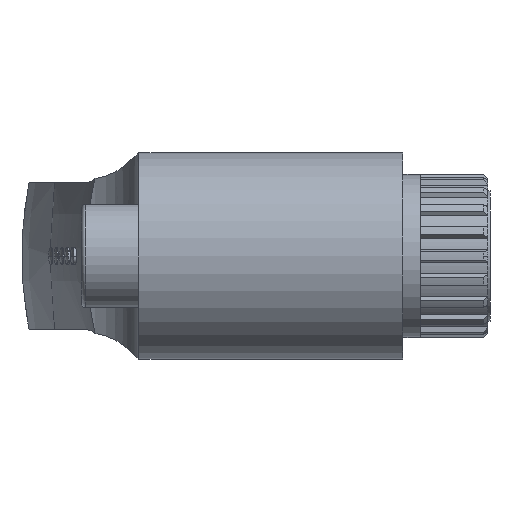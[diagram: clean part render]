
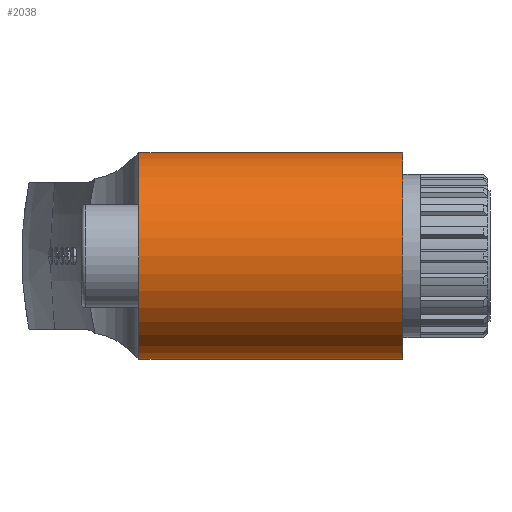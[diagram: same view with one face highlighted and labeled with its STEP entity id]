
A CAD part, left-side view. The second image highlights one B-rep face of the part: STEP entity #2038.
In plain terms, the highlighted cylindrical face has radius 9.5 mm (diameter 19 mm), a partial arc.
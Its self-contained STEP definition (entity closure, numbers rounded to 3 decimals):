
#49 = EDGE_LOOP ( 'NONE', ( #260, #5406, #2709, #1446 ) ) ;
#78 = EDGE_CURVE ( 'NONE', #784, #236, #3183, .T. ) ;
#154 = CYLINDRICAL_SURFACE ( 'NONE', #3347, 9.5 ) ;
#236 = VERTEX_POINT ( 'NONE', #586 ) ;
#260 = ORIENTED_EDGE ( 'NONE', *, *, #2069, .F. ) ;
#305 = DIRECTION ( 'NONE',  ( 0., -1., 0. ) ) ;
#586 = CARTESIAN_POINT ( 'NONE',  ( 0., 0., -9.5 ) ) ;
#784 = VERTEX_POINT ( 'NONE', #4386 ) ;
#965 = EDGE_CURVE ( 'NONE', #236, #3596, #3317, .T. ) ;
#1446 = ORIENTED_EDGE ( 'NONE', *, *, #965, .T. ) ;
#1497 = VECTOR ( 'NONE', #5435, 1000. ) ;
#1582 = DIRECTION ( 'NONE',  ( 0., -1., 0. ) ) ;
#1644 = CARTESIAN_POINT ( 'NONE',  ( 0., 40., 9.5 ) ) ;
#1897 = VERTEX_POINT ( 'NONE', #2078 ) ;
#2038 = ADVANCED_FACE ( 'NONE', ( #2382 ), #154, .T. ) ;
#2069 = EDGE_CURVE ( 'NONE', #1897, #3596, #3507, .T. ) ;
#2078 = CARTESIAN_POINT ( 'NONE',  ( 0., 24.25, 9.5 ) ) ;
#2382 = FACE_OUTER_BOUND ( 'NONE', #49, .T. ) ;
#2488 = AXIS2_PLACEMENT_3D ( 'NONE', #5999, #2642, #3586 ) ;
#2642 = DIRECTION ( 'NONE',  ( 0., 1., 0. ) ) ;
#2709 = ORIENTED_EDGE ( 'NONE', *, *, #78, .T. ) ;
#2711 = DIRECTION ( 'NONE',  ( 0., 0., -1. ) ) ;
#2728 = AXIS2_PLACEMENT_3D ( 'NONE', #3133, #5475, #2711 ) ;
#3133 = CARTESIAN_POINT ( 'NONE',  ( 0., 24.25, 0. ) ) ;
#3183 = LINE ( 'NONE', #6114, #4701 ) ;
#3211 = EDGE_CURVE ( 'NONE', #1897, #784, #5468, .T. ) ;
#3317 = CIRCLE ( 'NONE', #2488, 9.5 ) ;
#3347 = AXIS2_PLACEMENT_3D ( 'NONE', #4043, #1582, #4993 ) ;
#3507 = LINE ( 'NONE', #1644, #1497 ) ;
#3586 = DIRECTION ( 'NONE',  ( 0., 0., -1. ) ) ;
#3596 = VERTEX_POINT ( 'NONE', #4248 ) ;
#4043 = CARTESIAN_POINT ( 'NONE',  ( 0., 40., 0. ) ) ;
#4248 = CARTESIAN_POINT ( 'NONE',  ( 0., 0., 9.5 ) ) ;
#4386 = CARTESIAN_POINT ( 'NONE',  ( 0., 24.25, -9.5 ) ) ;
#4701 = VECTOR ( 'NONE', #305, 1000. ) ;
#4993 = DIRECTION ( 'NONE',  ( 0., 0., -1. ) ) ;
#5406 = ORIENTED_EDGE ( 'NONE', *, *, #3211, .T. ) ;
#5435 = DIRECTION ( 'NONE',  ( 0., -1., 0. ) ) ;
#5468 = CIRCLE ( 'NONE', #2728, 9.5 ) ;
#5475 = DIRECTION ( 'NONE',  ( 0., -1., 0. ) ) ;
#5999 = CARTESIAN_POINT ( 'NONE',  ( 0., 0., 0. ) ) ;
#6114 = CARTESIAN_POINT ( 'NONE',  ( 0., 40., -9.5 ) ) ;
